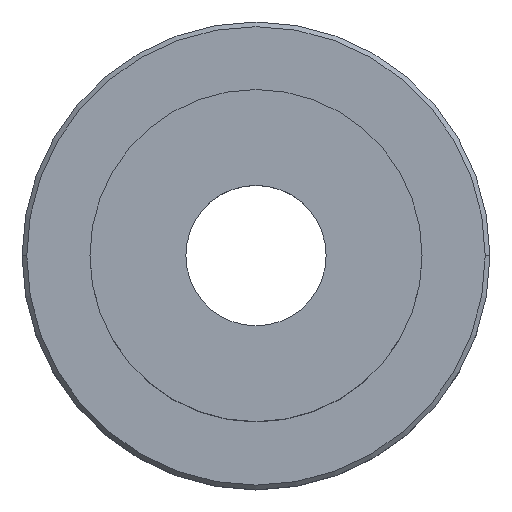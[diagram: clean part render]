
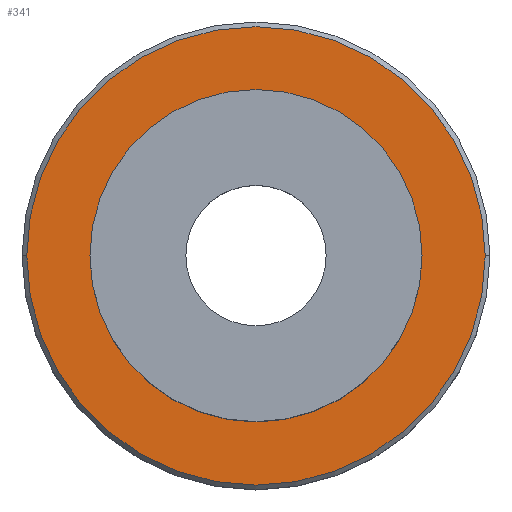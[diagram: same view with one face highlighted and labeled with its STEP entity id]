
A CAD part, top view. The second image highlights one B-rep face of the part: STEP entity #341.
In plain terms, the highlighted planar face has unit normal (0, 0, 1).
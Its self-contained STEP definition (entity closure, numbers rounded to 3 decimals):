
#13 = ORIENTED_EDGE ( 'NONE', *, *, #19, .T. ) ;
#19 = EDGE_CURVE ( 'NONE', #31, #38, #481, .T. ) ;
#31 = VERTEX_POINT ( 'NONE', #128 ) ;
#38 = VERTEX_POINT ( 'NONE', #391 ) ;
#44 = EDGE_CURVE ( 'NONE', #38, #31, #444, .T. ) ;
#104 = CARTESIAN_POINT ( 'NONE',  ( 49., 0., 0. ) ) ;
#117 = CARTESIAN_POINT ( 'NONE',  ( -49., 0., 0. ) ) ;
#128 = CARTESIAN_POINT ( 'NONE',  ( 35.5, 0., 0. ) ) ;
#164 = CIRCLE ( 'NONE', #165, 49. ) ;
#165 = AXIS2_PLACEMENT_3D ( 'NONE', #166, #171, #172 ) ;
#166 = CARTESIAN_POINT ( 'NONE',  ( 0., 0., 0. ) ) ;
#171 = DIRECTION ( 'NONE',  ( 0., 0., 1. ) ) ;
#172 = DIRECTION ( 'NONE',  ( -1., 0., 0. ) ) ;
#193 = CIRCLE ( 'NONE', #194, 49. ) ;
#194 = AXIS2_PLACEMENT_3D ( 'NONE', #195, #196, #197 ) ;
#195 = CARTESIAN_POINT ( 'NONE',  ( 0., 0., 0. ) ) ;
#196 = DIRECTION ( 'NONE',  ( 0., 0., 1. ) ) ;
#197 = DIRECTION ( 'NONE',  ( -1., 0., 0. ) ) ;
#318 = ORIENTED_EDGE ( 'NONE', *, *, #333, .T. ) ;
#327 = ORIENTED_EDGE ( 'NONE', *, *, #44, .T. ) ;
#333 = EDGE_CURVE ( 'NONE', #371, #367, #164, .T. ) ;
#341 = ADVANCED_FACE ( 'NONE', ( #403, #404 ), #408, .F. ) ;
#346 = ORIENTED_EDGE ( 'NONE', *, *, #387, .T. ) ;
#347 = EDGE_LOOP ( 'NONE', ( #318, #346 ) ) ;
#367 = VERTEX_POINT ( 'NONE', #104 ) ;
#371 = VERTEX_POINT ( 'NONE', #117 ) ;
#387 = EDGE_CURVE ( 'NONE', #367, #371, #193, .T. ) ;
#391 = CARTESIAN_POINT ( 'NONE',  ( -35.5, 0., 0. ) ) ;
#403 = FACE_OUTER_BOUND ( 'NONE', #347, .T. ) ;
#404 = FACE_BOUND ( 'NONE', #424, .T. ) ;
#408 = PLANE ( 'NONE',  #409 ) ;
#409 = AXIS2_PLACEMENT_3D ( 'NONE', #410, #411, #412 ) ;
#410 = CARTESIAN_POINT ( 'NONE',  ( 0., 0., 0. ) ) ;
#411 = DIRECTION ( 'NONE',  ( 0., 0., -1. ) ) ;
#412 = DIRECTION ( 'NONE',  ( -1., 0., 0. ) ) ;
#424 = EDGE_LOOP ( 'NONE', ( #327, #13 ) ) ;
#444 = CIRCLE ( 'NONE', #445, 35.5 ) ;
#445 = AXIS2_PLACEMENT_3D ( 'NONE', #446, #447, #448 ) ;
#446 = CARTESIAN_POINT ( 'NONE',  ( 0., 0., 0. ) ) ;
#447 = DIRECTION ( 'NONE',  ( 0., 0., -1. ) ) ;
#448 = DIRECTION ( 'NONE',  ( -1., 0., 0. ) ) ;
#481 = CIRCLE ( 'NONE', #482, 35.5 ) ;
#482 = AXIS2_PLACEMENT_3D ( 'NONE', #483, #484, #485 ) ;
#483 = CARTESIAN_POINT ( 'NONE',  ( 0., 0., 0. ) ) ;
#484 = DIRECTION ( 'NONE',  ( 0., 0., -1. ) ) ;
#485 = DIRECTION ( 'NONE',  ( -1., 0., 0. ) ) ;
